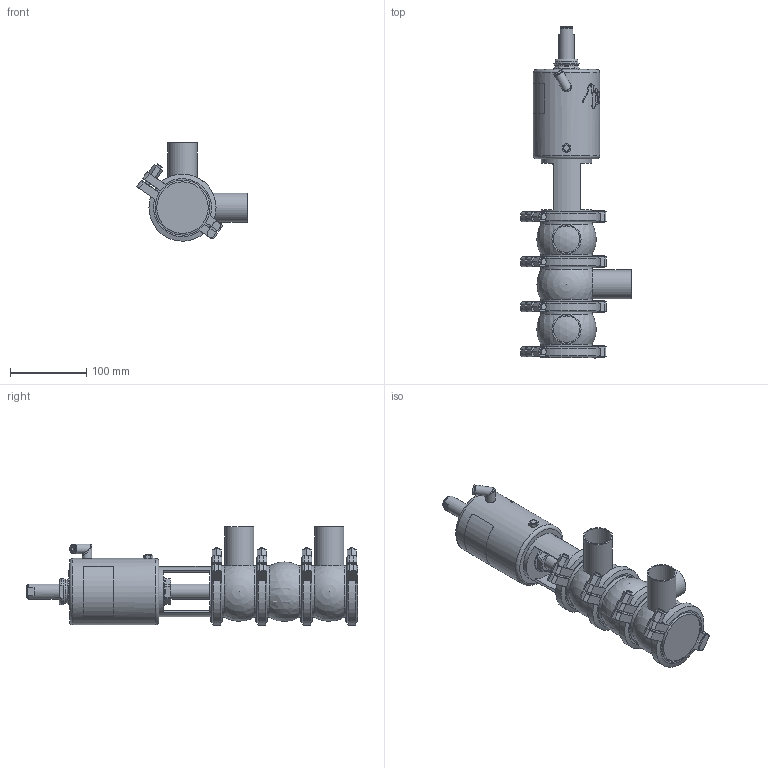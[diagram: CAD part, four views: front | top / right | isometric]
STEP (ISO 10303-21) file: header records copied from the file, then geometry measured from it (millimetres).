
FILE_DESCRIPTION (( 'STEP AP214' ), '1' );
FILE_NAME ('INNOVA L J W OD 1½ T1 AS NC_10.241.16.0013.STEP', '2024-08-07T07:50:10', ( '' ), ( '' ), 'SwSTEP 2.0', 'SolidWorks 2023', '' );
FILE_SCHEMA (( 'AUTOMOTIVE_DESIGN' ));
Length unit declared in the file: millimetre
Products named in the file (6): 10.241.15.0001_DIN 040; 10.240.15.0010_DN 040; 10.240.15.0001_DN 040; 10.240.15.0014_T1 AS P180; INNOVA L J W OD 1½ T1 AS NC_10.241.16.0013; 10.240.15.0006_OD 1½"
Assembly tree (10 placements, depth 2):
  INNOVA L J W OD 1½ T1 AS NC_10.241.16.0013
    10.240.15.0006_OD 1½"  x3
    10.240.15.0010_DN 040
    10.240.15.0014_T1 AS P180
    10.240.15.0001_DN 040  x4
    10.241.15.0001_DIN 040
Bounding box: 145.13 x 435.07 x 129 mm (x, y, z)
Volume: 1748133.7 mm3; surface area: 269931.5 mm2
Topology: 11 solids, 11 shells, 532 faces, 1396 edges, 908 vertices
Faces by surface type: plane 260, cylinder 136, bspline 80, cone 46, sphere 6, torus 4
Full cylindrical faces by diameter (mm): 6.15 x1, 8 x9, 8.5 x1, 10.5 x1, 12.5 x3, 16 x1, 20 x2, 31 x1, 34.5 x2, 34.8 x3, 36.5 x1, 38.1 x3, 66 x1, 67.5 x7, 79.5 x8, 87 x1
Entity records: 19298 total; most frequent: CARTESIAN_POINT 10175, ORIENTED_EDGE 1592, DIRECTION 1209, EDGE_CURVE 796, VERTEX_POINT 547, AXIS2_PLACEMENT_3D 460, EDGE_LOOP 399, FACE_OUTER_BOUND 360
